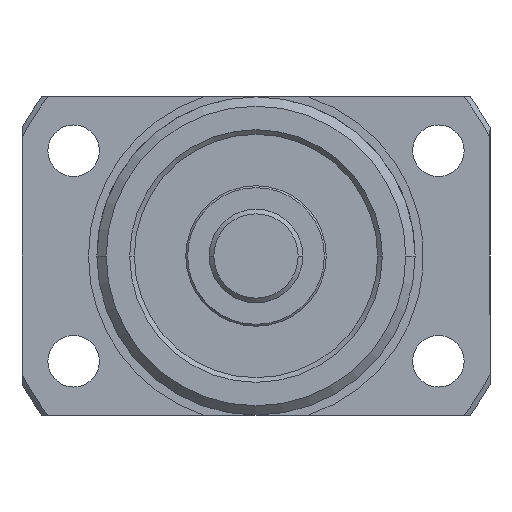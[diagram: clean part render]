
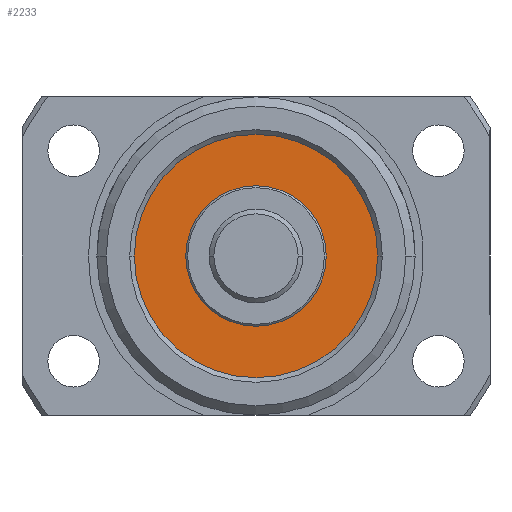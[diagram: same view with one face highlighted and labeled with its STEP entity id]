
A CAD part, left-side view. The second image highlights one B-rep face of the part: STEP entity #2233.
In plain terms, the highlighted planar face has unit normal (-1, 0, 0).
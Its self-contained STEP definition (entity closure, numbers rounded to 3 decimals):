
#49 = EDGE_CURVE ( 'NONE', #5770, #5773, #1061, .T. ) ;
#138 = EDGE_CURVE ( 'NONE', #399, #5845, #1138, .T. ) ;
#203 = ORIENTED_EDGE ( 'NONE', *, *, #261, .T. ) ;
#204 = ORIENTED_EDGE ( 'NONE', *, *, #49, .T. ) ;
#207 = ORIENTED_EDGE ( 'NONE', *, *, #560, .F. ) ;
#210 = ORIENTED_EDGE ( 'NONE', *, *, #138, .F. ) ;
#261 = EDGE_CURVE ( 'NONE', #5773, #5770, #1235, .T. ) ;
#369 = AXIS2_PLACEMENT_3D ( 'NONE', #4511, #4512, #4513 ) ;
#399 = VERTEX_POINT ( 'NONE', #4298 ) ;
#560 = EDGE_CURVE ( 'NONE', #5845, #399, #3302, .T. ) ;
#1061 = CIRCLE ( 'NONE', #369, 13. ) ;
#1138 = CIRCLE ( 'NONE', #5529, 7.5 ) ;
#1235 = CIRCLE ( 'NONE', #5559, 13. ) ;
#1411 = FACE_BOUND ( 'NONE', #3866, .T. ) ;
#1416 = FACE_OUTER_BOUND ( 'NONE', #3881, .T. ) ;
#1895 = AXIS2_PLACEMENT_3D ( 'NONE', #5176, #5175, #5179 ) ;
#2233 = ADVANCED_FACE ( 'NONE', ( #1411, #1416 ), #5177, .T. ) ;
#3067 = CARTESIAN_POINT ( 'NONE',  ( -50.5, -13., 0. ) ) ;
#3070 = CARTESIAN_POINT ( 'NONE',  ( -50.5, 13., 0. ) ) ;
#3123 = CARTESIAN_POINT ( 'NONE',  ( -50.5, 0., 7.5 ) ) ;
#3302 = CIRCLE ( 'NONE', #5594, 7.5 ) ;
#3866 = EDGE_LOOP ( 'NONE', ( #210, #207 ) ) ;
#3881 = EDGE_LOOP ( 'NONE', ( #204, #203 ) ) ;
#4133 = DIRECTION ( 'NONE',  ( 0., -1., 0. ) ) ;
#4134 = DIRECTION ( 'NONE',  ( -1., 0., 0. ) ) ;
#4135 = CARTESIAN_POINT ( 'NONE',  ( -50.5, 0., 0. ) ) ;
#4298 = CARTESIAN_POINT ( 'NONE',  ( -50.5, 0., -7.5 ) ) ;
#4511 = CARTESIAN_POINT ( 'NONE',  ( -50.5, 0., 0. ) ) ;
#4512 = DIRECTION ( 'NONE',  ( -1., 0., 0. ) ) ;
#4513 = DIRECTION ( 'NONE',  ( 0., -1., 0. ) ) ;
#4592 = CARTESIAN_POINT ( 'NONE',  ( -50.5, 0., 0. ) ) ;
#4593 = DIRECTION ( 'NONE',  ( -1., 0., 0. ) ) ;
#4594 = DIRECTION ( 'NONE',  ( 0., -1., 0. ) ) ;
#5175 = DIRECTION ( 'NONE',  ( -1., 0., 0. ) ) ;
#5176 = CARTESIAN_POINT ( 'NONE',  ( -50.5, 0., 0. ) ) ;
#5177 = PLANE ( 'NONE',  #1895 ) ;
#5179 = DIRECTION ( 'NONE',  ( 0., -1., 0. ) ) ;
#5374 = DIRECTION ( 'NONE',  ( 0., -1., 0. ) ) ;
#5376 = DIRECTION ( 'NONE',  ( -1., 0., 0. ) ) ;
#5424 = CARTESIAN_POINT ( 'NONE',  ( -50.5, 0., 0. ) ) ;
#5529 = AXIS2_PLACEMENT_3D ( 'NONE', #4135, #4134, #4133 ) ;
#5559 = AXIS2_PLACEMENT_3D ( 'NONE', #5424, #5376, #5374 ) ;
#5594 = AXIS2_PLACEMENT_3D ( 'NONE', #4592, #4593, #4594 ) ;
#5770 = VERTEX_POINT ( 'NONE', #3067 ) ;
#5773 = VERTEX_POINT ( 'NONE', #3070 ) ;
#5845 = VERTEX_POINT ( 'NONE', #3123 ) ;
